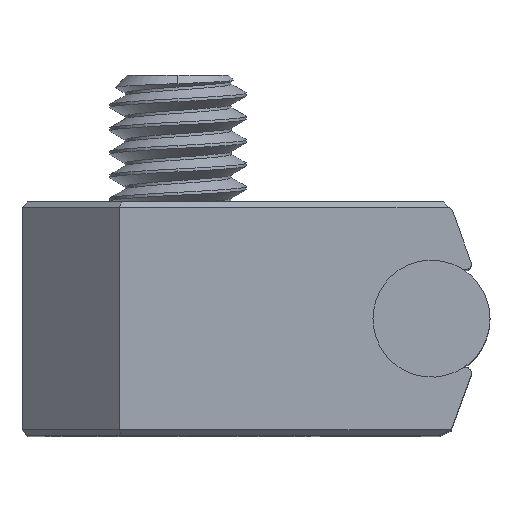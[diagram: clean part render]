
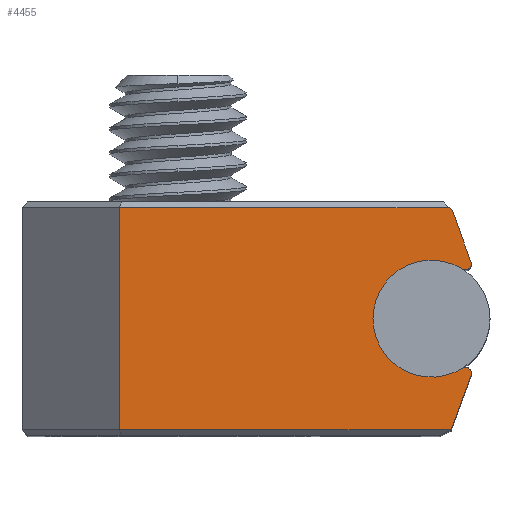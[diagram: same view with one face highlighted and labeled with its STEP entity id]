
A CAD part, top view. The second image highlights one B-rep face of the part: STEP entity #4455.
In plain terms, the highlighted planar face has unit normal (0, 0, 1) as drawn and (0, 0, -1) by its records, which use the part's own axes.
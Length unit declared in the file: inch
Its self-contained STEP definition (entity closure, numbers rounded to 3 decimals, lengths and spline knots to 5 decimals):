
#87 = AXIS2_PLACEMENT_3D ( 'NONE', #3478, #955, #987 ) ;
#120 = CIRCLE ( 'NONE', #325, 0.00591 ) ;
#128 = CARTESIAN_POINT ( 'NONE',  ( 0.28719, 0.05009, -0.29528 ) ) ;
#184 = EDGE_CURVE ( 'NONE', #4892, #1345, #5248, .T. ) ;
#325 = AXIS2_PLACEMENT_3D ( 'NONE', #1266, #3262, #5172 ) ;
#468 = ORIENTED_EDGE ( 'NONE', *, *, #514, .F. ) ;
#490 = DIRECTION ( 'NONE',  ( -0.707, -0.707, 0. ) ) ;
#514 = EDGE_CURVE ( 'NONE', #5635, #1313, #120, .T. ) ;
#550 = DIRECTION ( 'NONE',  ( 0., -1., 0. ) ) ;
#912 = EDGE_CURVE ( 'NONE', #1313, #1411, #1452, .T. ) ;
#955 = DIRECTION ( 'NONE',  ( 0., 0., -1. ) ) ;
#987 = DIRECTION ( 'NONE',  ( -1., 0., 0. ) ) ;
#1266 = CARTESIAN_POINT ( 'NONE',  ( 0.29032, -0.0551, -0.29528 ) ) ;
#1283 = EDGE_CURVE ( 'NONE', #4892, #5406, #2687, .T. ) ;
#1313 = VERTEX_POINT ( 'NONE', #1325 ) ;
#1325 = CARTESIAN_POINT ( 'NONE',  ( 0.28719, -0.05009, -0.29528 ) ) ;
#1345 = VERTEX_POINT ( 'NONE', #5289 ) ;
#1411 = VERTEX_POINT ( 'NONE', #3256 ) ;
#1452 = CIRCLE ( 'NONE', #3654, 0.05906 ) ;
#1572 = VECTOR ( 'NONE', #6037, 39.37008 ) ;
#1649 = DIRECTION ( 'NONE',  ( -1., 0., 0. ) ) ;
#1666 = VECTOR ( 'NONE', #4898, 39.37008 ) ;
#1844 = CARTESIAN_POINT ( 'NONE',  ( -0.15748, -0.1122, -0.29528 ) ) ;
#1924 = DIRECTION ( 'NONE',  ( 0., 0., -1. ) ) ;
#2045 = CARTESIAN_POINT ( 'NONE',  ( 0.29032, 0.1122, -0.29528 ) ) ;
#2131 = EDGE_CURVE ( 'NONE', #4211, #1345, #2592, .T. ) ;
#2345 = EDGE_CURVE ( 'NONE', #6126, #5635, #2780, .T. ) ;
#2399 = VECTOR ( 'NONE', #550, 39.37008 ) ;
#2437 = VECTOR ( 'NONE', #4915, 39.37008 ) ;
#2440 = CARTESIAN_POINT ( 'NONE',  ( 0.27582, 0.1122, -0.29528 ) ) ;
#2544 = FACE_OUTER_BOUND ( 'NONE', #4961, .T. ) ;
#2547 = EDGE_CURVE ( 'NONE', #6126, #5230, #4111, .T. ) ;
#2558 = CARTESIAN_POINT ( 'NONE',  ( 0.27705, -0.10883, -0.29528 ) ) ;
#2592 = CIRCLE ( 'NONE', #3869, 0.00591 ) ;
#2687 = LINE ( 'NONE', #2045, #1572 ) ;
#2754 = CARTESIAN_POINT ( 'NONE',  ( 0.29587, -0.05712, -0.29528 ) ) ;
#2780 = LINE ( 'NONE', #4798, #6050 ) ;
#2897 = ORIENTED_EDGE ( 'NONE', *, *, #2345, .F. ) ;
#2965 = DIRECTION ( 'NONE',  ( -1., 0., 0. ) ) ;
#2976 = CARTESIAN_POINT ( 'NONE',  ( -0.05906, -0.0551, -0.29528 ) ) ;
#3016 = CIRCLE ( 'NONE', #87, 0.05906 ) ;
#3040 = PLANE ( 'NONE',  #5961 ) ;
#3063 = ORIENTED_EDGE ( 'NONE', *, *, #2547, .T. ) ;
#3085 = CARTESIAN_POINT ( 'NONE',  ( 0.29032, 0.0551, -0.29528 ) ) ;
#3107 = ORIENTED_EDGE ( 'NONE', *, *, #912, .F. ) ;
#3157 = EDGE_CURVE ( 'NONE', #5230, #5794, #5933, .T. ) ;
#3159 = EDGE_CURVE ( 'NONE', #1411, #4211, #3016, .T. ) ;
#3250 = DIRECTION ( 'NONE',  ( 0.342, 0.94, 0. ) ) ;
#3256 = CARTESIAN_POINT ( 'NONE',  ( 0.19685, 0., -0.29528 ) ) ;
#3262 = DIRECTION ( 'NONE',  ( 0., 0., 1. ) ) ;
#3333 = VECTOR ( 'NONE', #490, 39.37008 ) ;
#3478 = CARTESIAN_POINT ( 'NONE',  ( 0.25591, 0., -0.29528 ) ) ;
#3571 = DIRECTION ( 'NONE',  ( 0., 0., 1. ) ) ;
#3654 = AXIS2_PLACEMENT_3D ( 'NONE', #6447, #1924, #2965 ) ;
#3869 = AXIS2_PLACEMENT_3D ( 'NONE', #3085, #4604, #1649 ) ;
#4111 = LINE ( 'NONE', #6024, #3333 ) ;
#4138 = ORIENTED_EDGE ( 'NONE', *, *, #2131, .F. ) ;
#4211 = VERTEX_POINT ( 'NONE', #128 ) ;
#4370 = ORIENTED_EDGE ( 'NONE', *, *, #3157, .T. ) ;
#4410 = EDGE_CURVE ( 'NONE', #5406, #5794, #6494, .T. ) ;
#4438 = DIRECTION ( 'NONE',  ( 1., 0., 0. ) ) ;
#4455 = ADVANCED_FACE ( 'NONE', ( #2544 ), #3040, .F. ) ;
#4559 = CARTESIAN_POINT ( 'NONE',  ( 0.29032, -0.0551, -0.29528 ) ) ;
#4604 = DIRECTION ( 'NONE',  ( 0., 0., 1. ) ) ;
#4797 = ORIENTED_EDGE ( 'NONE', *, *, #184, .T. ) ;
#4798 = CARTESIAN_POINT ( 'NONE',  ( 0.27705, -0.10883, -0.29528 ) ) ;
#4857 = ORIENTED_EDGE ( 'NONE', *, *, #4410, .F. ) ;
#4865 = CARTESIAN_POINT ( 'NONE',  ( -0.05906, -0.1122, -0.29528 ) ) ;
#4892 = VERTEX_POINT ( 'NONE', #2440 ) ;
#4898 = DIRECTION ( 'NONE',  ( -1., 0., 0. ) ) ;
#4915 = DIRECTION ( 'NONE',  ( 0.342, -0.94, 0. ) ) ;
#4961 = EDGE_LOOP ( 'NONE', ( #3063, #4370, #4857, #5250, #4797, #4138, #6268, #3107, #468, #2897 ) ) ;
#5172 = DIRECTION ( 'NONE',  ( -1., 0., 0. ) ) ;
#5230 = VERTEX_POINT ( 'NONE', #5265 ) ;
#5248 = LINE ( 'NONE', #5468, #2437 ) ;
#5250 = ORIENTED_EDGE ( 'NONE', *, *, #1283, .F. ) ;
#5265 = CARTESIAN_POINT ( 'NONE',  ( 0.27367, -0.1122, -0.29528 ) ) ;
#5289 = CARTESIAN_POINT ( 'NONE',  ( 0.29587, 0.05712, -0.29528 ) ) ;
#5406 = VERTEX_POINT ( 'NONE', #5456 ) ;
#5456 = CARTESIAN_POINT ( 'NONE',  ( -0.05906, 0.1122, -0.29528 ) ) ;
#5468 = CARTESIAN_POINT ( 'NONE',  ( 0.27367, 0.11811, -0.29528 ) ) ;
#5635 = VERTEX_POINT ( 'NONE', #2754 ) ;
#5794 = VERTEX_POINT ( 'NONE', #4865 ) ;
#5933 = LINE ( 'NONE', #1844, #1666 ) ;
#5961 = AXIS2_PLACEMENT_3D ( 'NONE', #4559, #3571, #4438 ) ;
#6024 = CARTESIAN_POINT ( 'NONE',  ( 0.27705, -0.10883, -0.29528 ) ) ;
#6037 = DIRECTION ( 'NONE',  ( -1., 0., 0. ) ) ;
#6050 = VECTOR ( 'NONE', #3250, 39.37008 ) ;
#6126 = VERTEX_POINT ( 'NONE', #2558 ) ;
#6268 = ORIENTED_EDGE ( 'NONE', *, *, #3159, .F. ) ;
#6447 = CARTESIAN_POINT ( 'NONE',  ( 0.25591, 0., -0.29528 ) ) ;
#6494 = LINE ( 'NONE', #2976, #2399 ) ;
